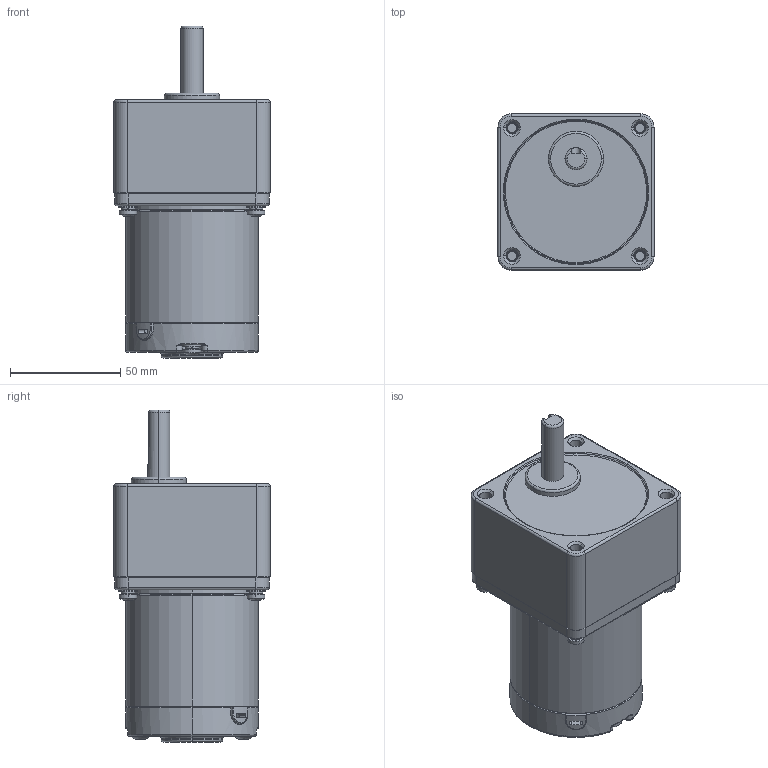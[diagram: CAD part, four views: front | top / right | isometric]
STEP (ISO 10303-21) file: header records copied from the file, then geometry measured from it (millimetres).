
FILE_DESCRIPTION (( 'STEP AP203' ), '1' );
FILE_NAME ('70 51儂褲囀离.STEP', '2021-07-13T08:19:32', ( '' ), ( '' ), 'SwSTEP 2.0', 'SolidWorks 2019', '' );
FILE_SCHEMA (( 'CONFIG_CONTROL_DESIGN' ));
Length unit declared in the file: millimetre
Products named in the file (10): 蚾饜极31^70 51儂褲囀离; HOUGAI; LUDING; 70 51儂褲囀离; TANDIAN; QIANGAI-70; 蚾饜极32^70 51儂褲囀离; PENGDIAN; 70喘謫眊; JIKE
Assembly tree (24 placements, depth 3):
  70 51儂褲囀离
    TANDIAN  x4
    蚾饜极31^70 51儂褲囀离
      LUDING
      TANDIAN
      PENGDIAN
    蚾饜极32^70 51儂褲囀离
      LUDING
      TANDIAN
      PENGDIAN
    LUDING  x4
    PENGDIAN  x4
    HOUGAI
    QIANGAI-70
    JIKE
    70喘謫眊
Bounding box: 70.8 x 70.8 x 150.5 mm (x, y, z)
Volume: 267657.1 mm3; surface area: 71983.1 mm2
Topology: 23 solids, 23 shells, 613 faces, 1440 edges, 881 vertices
Faces by surface type: cone 199, cylinder 198, plane 147, torus 35, bspline 28, sphere 6
Entity records: 10992 total; most frequent: CARTESIAN_POINT 2832, DIRECTION 1513, ORIENTED_EDGE 1344, EDGE_CURVE 672, AXIS2_PLACEMENT_3D 630, VERTEX_POINT 416, CIRCLE 336, EDGE_LOOP 322
